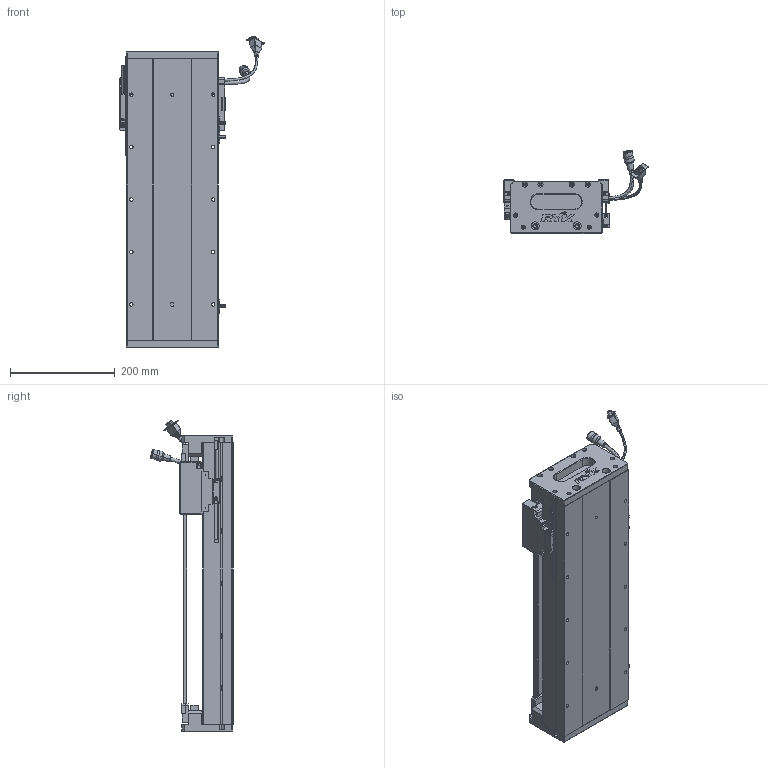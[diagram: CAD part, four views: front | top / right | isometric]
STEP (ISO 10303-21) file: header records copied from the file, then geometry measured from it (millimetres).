
FILE_DESCRIPTION (( 'STEP AP203' ), '1' );
FILE_NAME ('Z1-RY170D-1-L500-B-K.SLDASM_0350.step', '2021-05-17T08:51:25', ( '盈信电脑' ), ( '东莞市道滘镇水果街19号' ), 'SwSTEP 2.0', 'SolidWorks 2016', '' );
FILE_SCHEMA (( 'CONFIG_CONTROL_DESIGN' ));
Length unit declared in the file: millimetre
Products named in the file (36): PSLH080_PSLF2; PBU_SHEET; 170-Z-臏賑輸盄裔(21遴); HARNESS; SCREW-M1.7-1; HOLDER0; SCALE-Part-1; SCREW-M1.6-2; SCALE-Part-2; SEAL; LABEL; SCALE; HARNESS-Part-1; Z-RY170詩湍狟揤裔; SCREW-M1.7; Z1-RY170臏賑輸(21遴); Z1-RY170-L500詩湍145mm遵_0350; HARNESS-Part-2; SEAL-Part-1; SHIELDPLATE; SCREW-M1.6; RY170直线电机感应器672光电感应片; Z-RY170詩湍奻揤裔; SCREW-M1.6-1; COVER; 覜茼ん672; COVER-Part-1; 140蚥薯蝶輸; Z1-RY170-L500耀郪菁釱_0350; Z-170詩湍傷裔啣; 140雄赽晤鎢ん堤盄; LABEL-Part-1; Z1-RY170D-1-L500-B-K.SLDASM_0350; 榋妏寠巭燃_暯_M2_2; SCREW-M1.6-3; 080黍杅芛假蚾釱21遴
Assembly tree (41 placements, depth 4):
  Z1-RY170D-1-L500-B-K.SLDASM_0350
    Z1-RY170-L500耀郪菁釱_0350
    RY170直线电机感应器672光电感应片
    Z1-RY170臏賑輸(21遴)
    覜茼ん672  x3
    PSLH080_PSLF2
      SCALE
        SCALE-Part-1
        SCALE-Part-2
      HARNESS
        HARNESS-Part-1
        HARNESS-Part-2
      LABEL
        LABEL-Part-1
      COVER
        COVER-Part-1
      SEAL
        SEAL-Part-1
      榋妏寠巭燃_暯_M2_2
      SHIELDPLATE
      SCREW-M1.7
      SCREW-M1.7-1
      PBU_SHEET
      SCREW-M1.6
      SCREW-M1.6-1
      SCREW-M1.6-2
      SCREW-M1.6-3
      HOLDER0
    080黍杅芛假蚾釱21遴
    Z1-RY170-L500詩湍145mm遵_0350
    Z-170詩湍傷裔啣  x2
    Z-RY170詩湍奻揤裔  x2
    Z-RY170詩湍狟揤裔  x2
    140蚥薯蝶輸  x2
    170-Z-臏賑輸盄裔(21遴)
    140雄赽晤鎢ん堤盄
Bounding box: 275.34 x 158.11 x 593.73 mm (x, y, z)
Volume: 3664337.9 mm3; surface area: 899028.2 mm2
Topology: 36 solids, 36 shells, 2594 faces, 6797 edges, 4291 vertices
Faces by surface type: cylinder 1096, plane 1088, cone 288, torus 69, bspline 53
Entity records: 72489 total; most frequent: CARTESIAN_POINT 17300, DIRECTION 10783, ORIENTED_EDGE 10590, EDGE_CURVE 5295, AXIS2_PLACEMENT_3D 3908, VERTEX_POINT 3409, VECTOR 2967, LINE 2967
